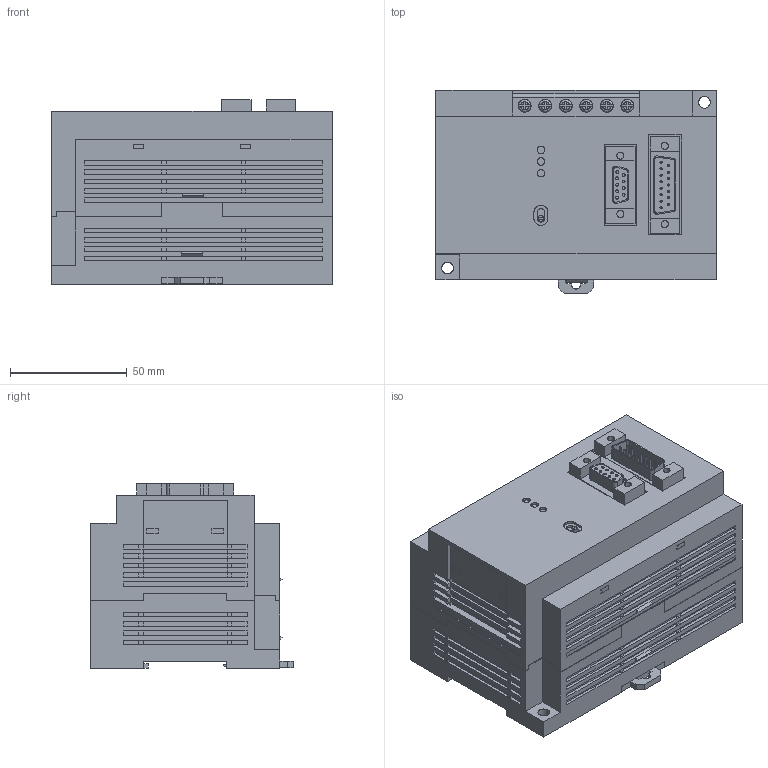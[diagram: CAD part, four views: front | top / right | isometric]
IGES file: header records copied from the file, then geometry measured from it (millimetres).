
Global section: organization: PanasonicElectricWorks; date: 080828.145534; units: millimetre
Bounding box: 120 x 86.9 x 79 mm (x, y, z)
Surface area: 62751.6 mm2 (no closed solid volume)
Topology: 0 solids, 0 shells, 1064 faces, 7976 edges, 7946 vertices
Faces by surface type: bspline 896, revolution 168
